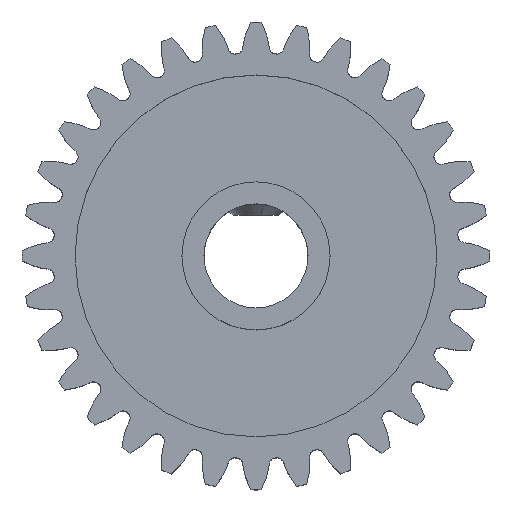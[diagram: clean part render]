
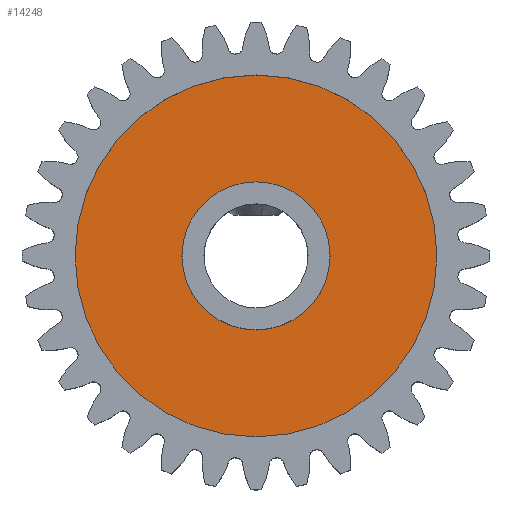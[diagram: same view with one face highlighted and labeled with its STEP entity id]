
A CAD part, top view. The second image highlights one B-rep face of the part: STEP entity #14248.
In plain terms, the highlighted planar face has unit normal (0, 0, 1).
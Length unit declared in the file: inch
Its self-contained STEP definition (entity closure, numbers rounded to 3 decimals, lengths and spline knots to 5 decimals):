
#256 = CARTESIAN_POINT ( 'NONE',  ( 0., 0., 0.125 ) ) ;
#425 = CARTESIAN_POINT ( 'NONE',  ( 0., 0., 0.125 ) ) ;
#1259 = EDGE_LOOP ( 'NONE', ( #13715, #16158 ) ) ;
#1313 = AXIS2_PLACEMENT_3D ( 'NONE', #16391, #10805, #16316 ) ;
#1511 = DIRECTION ( 'NONE',  ( 1., 0., 0. ) ) ;
#1664 = ORIENTED_EDGE ( 'NONE', *, *, #18448, .F. ) ;
#2239 = DIRECTION ( 'NONE',  ( 0., 0., 1. ) ) ;
#3030 = DIRECTION ( 'NONE',  ( 0., 0., 1. ) ) ;
#3085 = PLANE ( 'NONE',  #16238 ) ;
#3775 = VERTEX_POINT ( 'NONE', #16695 ) ;
#4043 = CARTESIAN_POINT ( 'NONE',  ( 0.41094, 0., 0.125 ) ) ;
#4774 = AXIS2_PLACEMENT_3D ( 'NONE', #256, #21777, #21858 ) ;
#5589 = CARTESIAN_POINT ( 'NONE',  ( -0.16811, 0., 0.125 ) ) ;
#6585 = CARTESIAN_POINT ( 'NONE',  ( 0., 0., 0.125 ) ) ;
#6872 = CARTESIAN_POINT ( 'NONE',  ( 0., 0., 0.125 ) ) ;
#7709 = CIRCLE ( 'NONE', #14887, 0.16811 ) ;
#8006 = FACE_BOUND ( 'NONE', #8498, .T. ) ;
#8471 = DIRECTION ( 'NONE',  ( 0., 0., 1. ) ) ;
#8498 = EDGE_LOOP ( 'NONE', ( #21783, #1664 ) ) ;
#8857 = FACE_OUTER_BOUND ( 'NONE', #1259, .T. ) ;
#8966 = AXIS2_PLACEMENT_3D ( 'NONE', #425, #2239, #14853 ) ;
#9173 = VERTEX_POINT ( 'NONE', #4043 ) ;
#9202 = EDGE_CURVE ( 'NONE', #9173, #3775, #19543, .T. ) ;
#10805 = DIRECTION ( 'NONE',  ( 0., 0., 1. ) ) ;
#13715 = ORIENTED_EDGE ( 'NONE', *, *, #9202, .T. ) ;
#13978 = DIRECTION ( 'NONE',  ( 1., 0., 0. ) ) ;
#14248 = ADVANCED_FACE ( 'NONE', ( #8006, #8857 ), #3085, .T. ) ;
#14703 = CIRCLE ( 'NONE', #1313, 0.16811 ) ;
#14853 = DIRECTION ( 'NONE',  ( 1., 0., 0. ) ) ;
#14887 = AXIS2_PLACEMENT_3D ( 'NONE', #6585, #3030, #1511 ) ;
#15999 = EDGE_CURVE ( 'NONE', #3775, #9173, #16155, .T. ) ;
#16155 = CIRCLE ( 'NONE', #4774, 0.41094 ) ;
#16158 = ORIENTED_EDGE ( 'NONE', *, *, #15999, .T. ) ;
#16238 = AXIS2_PLACEMENT_3D ( 'NONE', #6872, #8471, #13978 ) ;
#16316 = DIRECTION ( 'NONE',  ( 1., 0., 0. ) ) ;
#16391 = CARTESIAN_POINT ( 'NONE',  ( 0., 0., 0.125 ) ) ;
#16394 = EDGE_CURVE ( 'NONE', #20555, #17196, #7709, .T. ) ;
#16695 = CARTESIAN_POINT ( 'NONE',  ( -0.41094, 0., 0.125 ) ) ;
#17196 = VERTEX_POINT ( 'NONE', #5589 ) ;
#18448 = EDGE_CURVE ( 'NONE', #17196, #20555, #14703, .T. ) ;
#19543 = CIRCLE ( 'NONE', #8966, 0.41094 ) ;
#20555 = VERTEX_POINT ( 'NONE', #21535 ) ;
#21535 = CARTESIAN_POINT ( 'NONE',  ( 0.16811, 0., 0.125 ) ) ;
#21777 = DIRECTION ( 'NONE',  ( 0., 0., 1. ) ) ;
#21783 = ORIENTED_EDGE ( 'NONE', *, *, #16394, .F. ) ;
#21858 = DIRECTION ( 'NONE',  ( 1., 0., 0. ) ) ;
